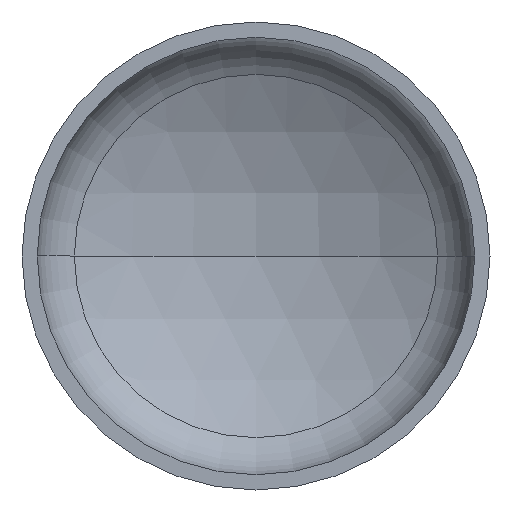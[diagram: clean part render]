
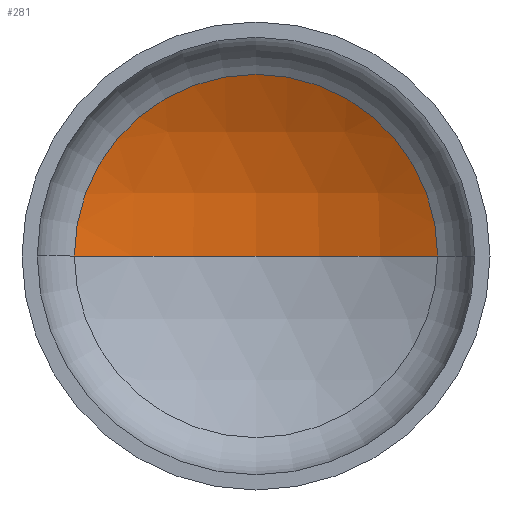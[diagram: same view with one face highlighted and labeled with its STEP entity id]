
A CAD part, front view. The second image highlights one B-rep face of the part: STEP entity #281.
In plain terms, the highlighted spherical face has radius 960 mm.
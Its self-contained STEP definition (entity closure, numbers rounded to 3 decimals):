
#2 = AXIS2_PLACEMENT_3D ( 'NONE', #110, #182, #354 ) ;
#13 = EDGE_LOOP ( 'NONE', ( #15, #200, #133 ) ) ;
#15 = ORIENTED_EDGE ( 'NONE', *, *, #391, .F. ) ;
#23 = AXIS2_PLACEMENT_3D ( 'NONE', #170, #165, #166 ) ;
#24 = AXIS2_PLACEMENT_3D ( 'NONE', #180, #84, #290 ) ;
#36 = AXIS2_PLACEMENT_3D ( 'NONE', #258, #220, #276 ) ;
#82 = VERTEX_POINT ( 'NONE', #300 ) ;
#84 = DIRECTION ( 'NONE',  ( 0., 0., -1. ) ) ;
#110 = CARTESIAN_POINT ( 'NONE',  ( 0., -557.679, 0. ) ) ;
#124 = VERTEX_POINT ( 'NONE', #225 ) ;
#133 = ORIENTED_EDGE ( 'NONE', *, *, #318, .T. ) ;
#161 = VERTEX_POINT ( 'NONE', #309 ) ;
#165 = DIRECTION ( 'NONE',  ( 0., -1., 0. ) ) ;
#166 = DIRECTION ( 'NONE',  ( 1., 0., 0. ) ) ;
#170 = CARTESIAN_POINT ( 'NONE',  ( 0., 281.769, 0. ) ) ;
#180 = CARTESIAN_POINT ( 'NONE',  ( 0., -557.679, 0. ) ) ;
#182 = DIRECTION ( 'NONE',  ( 0., 0., 1. ) ) ;
#200 = ORIENTED_EDGE ( 'NONE', *, *, #327, .T. ) ;
#206 = CIRCLE ( 'NONE', #23, 465.755 ) ;
#219 = SPHERICAL_SURFACE ( 'NONE', #36, 960. ) ;
#220 = DIRECTION ( 'NONE',  ( 0., 0., -1. ) ) ;
#225 = CARTESIAN_POINT ( 'NONE',  ( -465.755, 281.769, 0. ) ) ;
#258 = CARTESIAN_POINT ( 'NONE',  ( 0., -557.679, 0. ) ) ;
#276 = DIRECTION ( 'NONE',  ( -1., 0., 0. ) ) ;
#281 = ADVANCED_FACE ( 'NONE', ( #404 ), #219, .F. ) ;
#290 = DIRECTION ( 'NONE',  ( -1., 0., 0. ) ) ;
#300 = CARTESIAN_POINT ( 'NONE',  ( 465.755, 281.769, 0. ) ) ;
#303 = CIRCLE ( 'NONE', #2, 960. ) ;
#309 = CARTESIAN_POINT ( 'NONE',  ( 0., 402.321, 0. ) ) ;
#318 = EDGE_CURVE ( 'NONE', #82, #124, #206, .T. ) ;
#327 = EDGE_CURVE ( 'NONE', #161, #82, #389, .T. ) ;
#354 = DIRECTION ( 'NONE',  ( 1., 0., 0. ) ) ;
#389 = CIRCLE ( 'NONE', #24, 960. ) ;
#391 = EDGE_CURVE ( 'NONE', #161, #124, #303, .T. ) ;
#404 = FACE_OUTER_BOUND ( 'NONE', #13, .T. ) ;
